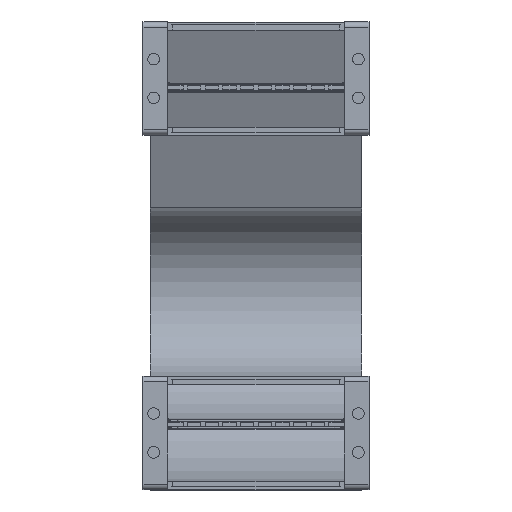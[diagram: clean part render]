
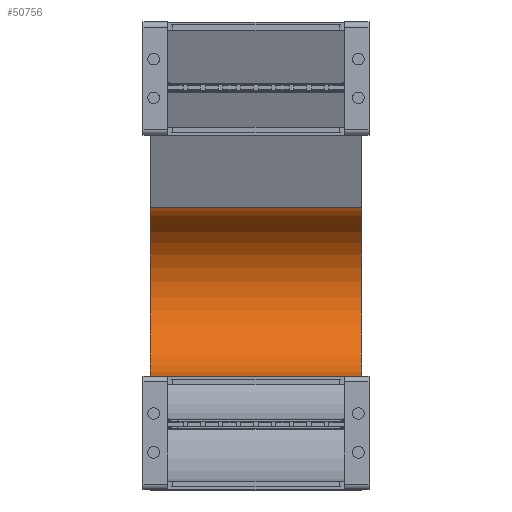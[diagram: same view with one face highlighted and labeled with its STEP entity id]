
A CAD part, top view. The second image highlights one B-rep face of the part: STEP entity #50756.
In plain terms, the highlighted cylindrical face has radius 48 mm (diameter 96 mm), a partial arc.
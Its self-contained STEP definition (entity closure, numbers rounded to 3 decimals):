
#49908=DIRECTION('',(-1.,0.,0.));
#49909=VECTOR('',#49908,120.);
#49910=CARTESIAN_POINT('',(60.,64.,-500.));
#49911=LINE('',#49910,#49909);
#49922=DIRECTION('',(-1.,0.,0.));
#49923=VECTOR('',#49922,120.);
#49924=CARTESIAN_POINT('',(60.,159.754,-504.851));
#49925=LINE('',#49924,#49923);
#49929=CARTESIAN_POINT('',(60.,112.,-500.));
#49930=DIRECTION('',(-1.,0.,0.));
#49931=DIRECTION('',(0.,0.995,-0.101));
#49932=AXIS2_PLACEMENT_3D('',#49929,#49930,#49931);
#50008=CARTESIAN_POINT('',(-60.,112.,-500.));
#50009=DIRECTION('',(-1.,0.,0.));
#50010=DIRECTION('',(0.,0.995,-0.101));
#50011=AXIS2_PLACEMENT_3D('',#50008,#50009,#50010);
#50130=CARTESIAN_POINT('',(60.,159.754,-504.851));
#50131=CARTESIAN_POINT('',(-60.,159.754,-504.851));
#50132=VERTEX_POINT('',#50130);
#50133=VERTEX_POINT('',#50131);
#50154=CARTESIAN_POINT('',(60.,64.,-500.));
#50155=CARTESIAN_POINT('',(-60.,64.,-500.));
#50156=VERTEX_POINT('',#50154);
#50157=VERTEX_POINT('',#50155);
#50742=CARTESIAN_POINT('',(1.,112.,-500.));
#50743=DIRECTION('',(-1.,0.,0.));
#50744=DIRECTION('',(0.,-0.995,0.101));
#50745=AXIS2_PLACEMENT_3D('',#50742,#50743,#50744);
#50746=CYLINDRICAL_SURFACE('',#50745,48.);
#50748=ORIENTED_EDGE('',*,*,#50747,.F.);
#50750=ORIENTED_EDGE('',*,*,#50749,.T.);
#50751=ORIENTED_EDGE('',*,*,#50725,.T.);
#50753=ORIENTED_EDGE('',*,*,#50752,.F.);
#50754=EDGE_LOOP('',(#50748,#50750,#50751,#50753));
#50755=FACE_OUTER_BOUND('',#50754,.F.);
#49933=CIRCLE('',#49932,48.);
#50012=CIRCLE('',#50011,48.);
#50725=EDGE_CURVE('',#50156,#50157,#49911,.T.);
#50747=EDGE_CURVE('',#50132,#50133,#49925,.T.);
#50749=EDGE_CURVE('',#50132,#50156,#49933,.T.);
#50752=EDGE_CURVE('',#50133,#50157,#50012,.T.);
#50756=ADVANCED_FACE('',(#50755),#50746,.F.);
